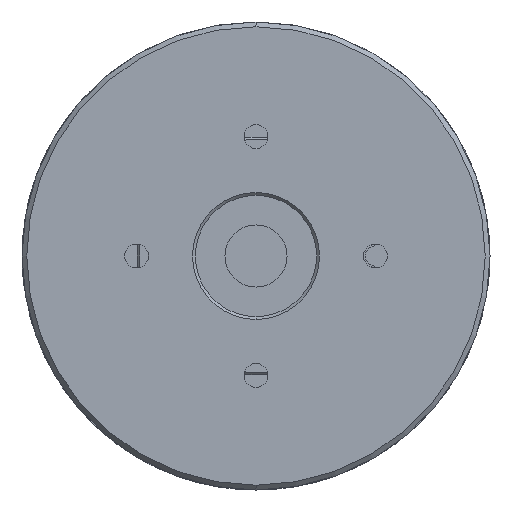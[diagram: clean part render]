
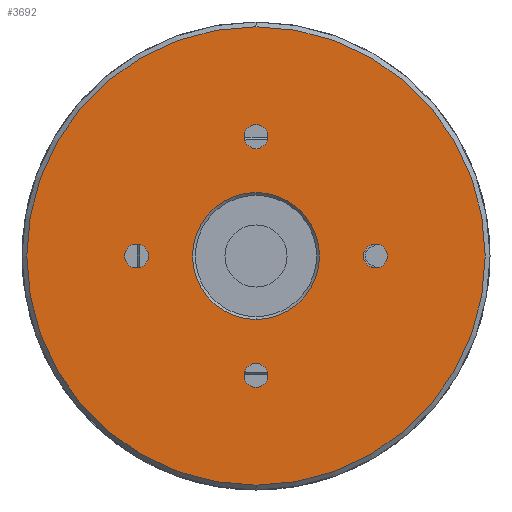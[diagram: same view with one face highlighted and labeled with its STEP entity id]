
A CAD part, left-side view. The second image highlights one B-rep face of the part: STEP entity #3692.
In plain terms, the highlighted planar face has unit normal (-1, 0, 0).
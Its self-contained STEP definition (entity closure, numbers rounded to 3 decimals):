
#442 = DIRECTION ( 'NONE',  ( 0., 0., 1. ) ) ;
#655 = VERTEX_POINT ( 'NONE', #9894 ) ;
#736 = CARTESIAN_POINT ( 'NONE',  ( 0., 0., 24. ) ) ;
#820 = CARTESIAN_POINT ( 'NONE',  ( 0., 0., -13.75 ) ) ;
#1350 = VERTEX_POINT ( 'NONE', #6307 ) ;
#1370 = EDGE_LOOP ( 'NONE', ( #14248, #13777 ) ) ;
#1475 = CARTESIAN_POINT ( 'NONE',  ( 0., 0., 11.25 ) ) ;
#1565 = CARTESIAN_POINT ( 'NONE',  ( 0., 24.5, 0. ) ) ;
#1614 = EDGE_CURVE ( 'NONE', #6338, #12361, #3448, .T. ) ;
#1624 = DIRECTION ( 'NONE',  ( 0., 0., 1. ) ) ;
#1666 = AXIS2_PLACEMENT_3D ( 'NONE', #16720, #7556, #7463 ) ;
#1819 = CARTESIAN_POINT ( 'NONE',  ( 0., 0., 12.5 ) ) ;
#1861 = CARTESIAN_POINT ( 'NONE',  ( 0., 0., 12.5 ) ) ;
#1925 = AXIS2_PLACEMENT_3D ( 'NONE', #4995, #3561, #11582 ) ;
#2051 = DIRECTION ( 'NONE',  ( 0., 0., 1. ) ) ;
#2054 = EDGE_LOOP ( 'NONE', ( #15770, #3885 ) ) ;
#2216 = AXIS2_PLACEMENT_3D ( 'NONE', #8392, #4391, #2051 ) ;
#2668 = DIRECTION ( 'NONE',  ( -1., 0., 0. ) ) ;
#2760 = FACE_OUTER_BOUND ( 'NONE', #2054, .T. ) ;
#2955 = EDGE_LOOP ( 'NONE', ( #5778, #11454 ) ) ;
#3120 = EDGE_CURVE ( 'NONE', #13668, #15311, #9031, .T. ) ;
#3246 = VERTEX_POINT ( 'NONE', #14723 ) ;
#3448 = CIRCLE ( 'NONE', #12716, 1.25 ) ;
#3561 = DIRECTION ( 'NONE',  ( -1., 0., 0. ) ) ;
#3564 = VERTEX_POINT ( 'NONE', #11332 ) ;
#3645 = AXIS2_PLACEMENT_3D ( 'NONE', #11993, #2668, #1624 ) ;
#3692 = ADVANCED_FACE ( 'NONE', ( #9501, #14486, #7988, #12189, #5431, #2760 ), #4242, .F. ) ;
#3885 = ORIENTED_EDGE ( 'NONE', *, *, #13556, .F. ) ;
#4004 = ORIENTED_EDGE ( 'NONE', *, *, #14314, .F. ) ;
#4242 = PLANE ( 'NONE',  #13820 ) ;
#4391 = DIRECTION ( 'NONE',  ( -1., 0., 0. ) ) ;
#4572 = CIRCLE ( 'NONE', #8109, 1.25 ) ;
#4876 = EDGE_CURVE ( 'NONE', #1350, #655, #16769, .T. ) ;
#4995 = CARTESIAN_POINT ( 'NONE',  ( 0., -12.5, 0. ) ) ;
#5056 = EDGE_LOOP ( 'NONE', ( #9447, #5994 ) ) ;
#5364 = CIRCLE ( 'NONE', #5890, 6.65 ) ;
#5417 = VERTEX_POINT ( 'NONE', #820 ) ;
#5431 = FACE_BOUND ( 'NONE', #2955, .T. ) ;
#5498 = DIRECTION ( 'NONE',  ( 0., 0., -1. ) ) ;
#5573 = EDGE_LOOP ( 'NONE', ( #4004, #8681 ) ) ;
#5685 = CARTESIAN_POINT ( 'NONE',  ( 0., -12.5, 0. ) ) ;
#5778 = ORIENTED_EDGE ( 'NONE', *, *, #13869, .F. ) ;
#5890 = AXIS2_PLACEMENT_3D ( 'NONE', #12726, #16339, #13998 ) ;
#5994 = ORIENTED_EDGE ( 'NONE', *, *, #12338, .F. ) ;
#6195 = CARTESIAN_POINT ( 'NONE',  ( 0., 0., 6.65 ) ) ;
#6307 = CARTESIAN_POINT ( 'NONE',  ( 0., 12.5, 1.25 ) ) ;
#6338 = VERTEX_POINT ( 'NONE', #9357 ) ;
#6443 = CARTESIAN_POINT ( 'NONE',  ( 0., 0., 0. ) ) ;
#6921 = DIRECTION ( 'NONE',  ( -1., 0., 0. ) ) ;
#6979 = DIRECTION ( 'NONE',  ( 1., 0., 0. ) ) ;
#7184 = CIRCLE ( 'NONE', #13450, 1.25 ) ;
#7265 = DIRECTION ( 'NONE',  ( 1., 0., 0. ) ) ;
#7418 = EDGE_CURVE ( 'NONE', #12575, #7445, #12504, .T. ) ;
#7445 = VERTEX_POINT ( 'NONE', #12696 ) ;
#7463 = DIRECTION ( 'NONE',  ( 0., 0., -1. ) ) ;
#7477 = VERTEX_POINT ( 'NONE', #6195 ) ;
#7523 = AXIS2_PLACEMENT_3D ( 'NONE', #9994, #7265, #10142 ) ;
#7556 = DIRECTION ( 'NONE',  ( 1., 0., 0. ) ) ;
#7988 = FACE_BOUND ( 'NONE', #5056, .T. ) ;
#8109 = AXIS2_PLACEMENT_3D ( 'NONE', #1861, #9542, #12052 ) ;
#8392 = CARTESIAN_POINT ( 'NONE',  ( 0., 12.5, 0. ) ) ;
#8681 = ORIENTED_EDGE ( 'NONE', *, *, #7418, .F. ) ;
#9031 = CIRCLE ( 'NONE', #1666, 24. ) ;
#9049 = EDGE_LOOP ( 'NONE', ( #9097, #12255 ) ) ;
#9097 = ORIENTED_EDGE ( 'NONE', *, *, #1614, .F. ) ;
#9357 = CARTESIAN_POINT ( 'NONE',  ( 0., -12.5, 1.25 ) ) ;
#9447 = ORIENTED_EDGE ( 'NONE', *, *, #10608, .F. ) ;
#9457 = CARTESIAN_POINT ( 'NONE',  ( 0., -12.5, -1.25 ) ) ;
#9501 = FACE_BOUND ( 'NONE', #5573, .T. ) ;
#9542 = DIRECTION ( 'NONE',  ( -1., 0., 0. ) ) ;
#9590 = DIRECTION ( 'NONE',  ( 0., 0., 1. ) ) ;
#9894 = CARTESIAN_POINT ( 'NONE',  ( 0., 12.5, -1.25 ) ) ;
#9941 = CIRCLE ( 'NONE', #16252, 1.25 ) ;
#9994 = CARTESIAN_POINT ( 'NONE',  ( 0., 0., 0. ) ) ;
#10142 = DIRECTION ( 'NONE',  ( 0., 0., -1. ) ) ;
#10266 = DIRECTION ( 'NONE',  ( 0., 0., 1. ) ) ;
#10309 = AXIS2_PLACEMENT_3D ( 'NONE', #1819, #12193, #442 ) ;
#10608 = EDGE_CURVE ( 'NONE', #3246, #5417, #9941, .T. ) ;
#11332 = CARTESIAN_POINT ( 'NONE',  ( 0., 0., -6.65 ) ) ;
#11421 = CARTESIAN_POINT ( 'NONE',  ( 0., 0., -12.5 ) ) ;
#11454 = ORIENTED_EDGE ( 'NONE', *, *, #14177, .F. ) ;
#11582 = DIRECTION ( 'NONE',  ( 0., 0., 1. ) ) ;
#11772 = EDGE_CURVE ( 'NONE', #655, #1350, #16452, .T. ) ;
#11993 = CARTESIAN_POINT ( 'NONE',  ( 0., 12.5, 0. ) ) ;
#12052 = DIRECTION ( 'NONE',  ( 0., 0., 1. ) ) ;
#12189 = FACE_BOUND ( 'NONE', #1370, .T. ) ;
#12193 = DIRECTION ( 'NONE',  ( -1., 0., 0. ) ) ;
#12255 = ORIENTED_EDGE ( 'NONE', *, *, #14710, .F. ) ;
#12338 = EDGE_CURVE ( 'NONE', #5417, #3246, #7184, .T. ) ;
#12361 = VERTEX_POINT ( 'NONE', #9457 ) ;
#12504 = CIRCLE ( 'NONE', #10309, 1.25 ) ;
#12575 = VERTEX_POINT ( 'NONE', #1475 ) ;
#12696 = CARTESIAN_POINT ( 'NONE',  ( 0., 0., 13.75 ) ) ;
#12716 = AXIS2_PLACEMENT_3D ( 'NONE', #5685, #16318, #9590 ) ;
#12726 = CARTESIAN_POINT ( 'NONE',  ( 0., 0., 0. ) ) ;
#12915 = DIRECTION ( 'NONE',  ( -1., 0., 0. ) ) ;
#12985 = CARTESIAN_POINT ( 'NONE',  ( 0., 0., -24. ) ) ;
#13450 = AXIS2_PLACEMENT_3D ( 'NONE', #16477, #6921, #16577 ) ;
#13556 = EDGE_CURVE ( 'NONE', #15311, #13668, #14624, .T. ) ;
#13668 = VERTEX_POINT ( 'NONE', #12985 ) ;
#13777 = ORIENTED_EDGE ( 'NONE', *, *, #11772, .F. ) ;
#13820 = AXIS2_PLACEMENT_3D ( 'NONE', #1565, #6979, #5498 ) ;
#13869 = EDGE_CURVE ( 'NONE', #7477, #3564, #5364, .T. ) ;
#13998 = DIRECTION ( 'NONE',  ( 0., 0., 1. ) ) ;
#14177 = EDGE_CURVE ( 'NONE', #3564, #7477, #14935, .T. ) ;
#14248 = ORIENTED_EDGE ( 'NONE', *, *, #4876, .F. ) ;
#14314 = EDGE_CURVE ( 'NONE', #7445, #12575, #4572, .T. ) ;
#14486 = FACE_BOUND ( 'NONE', #9049, .T. ) ;
#14624 = CIRCLE ( 'NONE', #7523, 24. ) ;
#14710 = EDGE_CURVE ( 'NONE', #12361, #6338, #16773, .T. ) ;
#14723 = CARTESIAN_POINT ( 'NONE',  ( 0., 0., -11.25 ) ) ;
#14935 = CIRCLE ( 'NONE', #15224, 6.65 ) ;
#15224 = AXIS2_PLACEMENT_3D ( 'NONE', #6443, #12915, #10266 ) ;
#15311 = VERTEX_POINT ( 'NONE', #736 ) ;
#15770 = ORIENTED_EDGE ( 'NONE', *, *, #3120, .F. ) ;
#16252 = AXIS2_PLACEMENT_3D ( 'NONE', #11421, #16669, #16328 ) ;
#16318 = DIRECTION ( 'NONE',  ( -1., 0., 0. ) ) ;
#16328 = DIRECTION ( 'NONE',  ( 0., 0., 1. ) ) ;
#16339 = DIRECTION ( 'NONE',  ( -1., 0., 0. ) ) ;
#16452 = CIRCLE ( 'NONE', #2216, 1.25 ) ;
#16477 = CARTESIAN_POINT ( 'NONE',  ( 0., 0., -12.5 ) ) ;
#16577 = DIRECTION ( 'NONE',  ( 0., 0., 1. ) ) ;
#16669 = DIRECTION ( 'NONE',  ( -1., 0., 0. ) ) ;
#16720 = CARTESIAN_POINT ( 'NONE',  ( 0., 0., 0. ) ) ;
#16769 = CIRCLE ( 'NONE', #3645, 1.25 ) ;
#16773 = CIRCLE ( 'NONE', #1925, 1.25 ) ;
